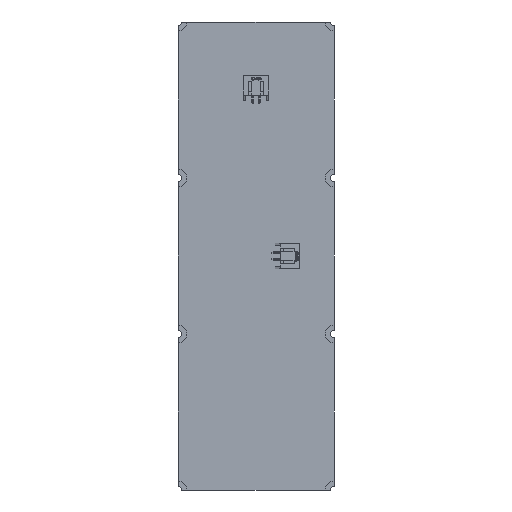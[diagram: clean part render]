
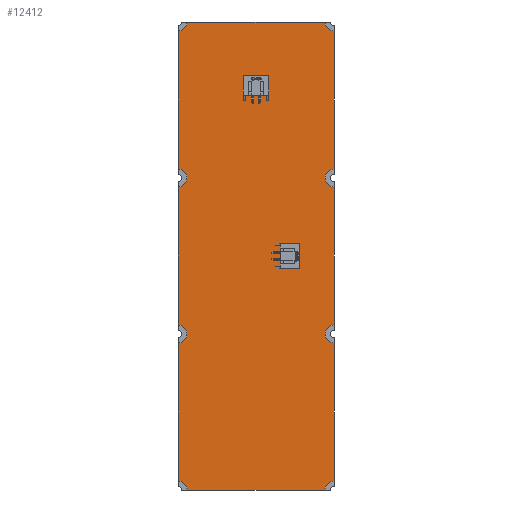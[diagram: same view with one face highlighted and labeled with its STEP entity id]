
A CAD part, front view. The second image highlights one B-rep face of the part: STEP entity #12412.
In plain terms, the highlighted planar face has unit normal (0, -1, 0).
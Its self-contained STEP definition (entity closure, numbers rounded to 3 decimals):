
#4312=DIRECTION('',(1.,0.,0.));
#4313=VECTOR('',#4312,5.1);
#4314=CARTESIAN_POINT('',(-2.55,0.,52.5));
#4315=LINE('',#4314,#4313);
#4316=DIRECTION('',(0.,0.,1.));
#4317=VECTOR('',#4316,3.);
#4318=CARTESIAN_POINT('',(2.55,0.,52.5));
#4319=LINE('',#4318,#4317);
#4320=DIRECTION('',(-1.,0.,0.));
#4321=VECTOR('',#4320,5.1);
#4322=CARTESIAN_POINT('',(2.55,0.,55.5));
#4323=LINE('',#4322,#4321);
#4324=DIRECTION('',(0.,0.,-1.));
#4325=VECTOR('',#4324,3.);
#4326=CARTESIAN_POINT('',(-2.55,0.,55.5));
#4327=LINE('',#4326,#4325);
#4328=DIRECTION('',(1.,0.,0.));
#4329=VECTOR('',#4328,3.);
#4330=CARTESIAN_POINT('',(10.5,0.,-2.55));
#4331=LINE('',#4330,#4329);
#4332=DIRECTION('',(0.,0.,1.));
#4333=VECTOR('',#4332,5.1);
#4334=CARTESIAN_POINT('',(13.5,0.,-2.55));
#4335=LINE('',#4334,#4333);
#4336=DIRECTION('',(-1.,0.,0.));
#4337=VECTOR('',#4336,3.);
#4338=CARTESIAN_POINT('',(13.5,0.,2.55));
#4339=LINE('',#4338,#4337);
#4340=DIRECTION('',(0.,0.,-1.));
#4341=VECTOR('',#4340,5.1);
#4342=CARTESIAN_POINT('',(10.5,0.,2.55));
#4343=LINE('',#4342,#4341);
#4344=CARTESIAN_POINT('',(-24.,0.,-72.));
#4345=DIRECTION('',(0.,-1.,0.));
#4346=DIRECTION('',(1.,0.,0.));
#4347=AXIS2_PLACEMENT_3D('',#4344,#4345,#4346);
#4349=DIRECTION('',(0.,0.,1.));
#4350=VECTOR('',#4349,42.5);
#4351=CARTESIAN_POINT('',(-24.,0.,-69.25));
#4352=LINE('',#4351,#4350);
#4353=CARTESIAN_POINT('',(-24.,0.,-24.));
#4354=DIRECTION('',(0.,-1.,0.));
#4355=DIRECTION('',(0.,0.,-1.));
#4356=AXIS2_PLACEMENT_3D('',#4353,#4354,#4355);
#4358=DIRECTION('',(0.,0.,1.));
#4359=VECTOR('',#4358,42.5);
#4360=CARTESIAN_POINT('',(-24.,0.,-21.25));
#4361=LINE('',#4360,#4359);
#4362=CARTESIAN_POINT('',(-24.,0.,24.));
#4363=DIRECTION('',(0.,-1.,0.));
#4364=DIRECTION('',(0.,0.,-1.));
#4365=AXIS2_PLACEMENT_3D('',#4362,#4363,#4364);
#4367=DIRECTION('',(0.,0.,1.));
#4368=VECTOR('',#4367,42.5);
#4369=CARTESIAN_POINT('',(-24.,0.,26.75));
#4370=LINE('',#4369,#4368);
#4371=CARTESIAN_POINT('',(-24.,0.,72.));
#4372=DIRECTION('',(0.,-1.,0.));
#4373=DIRECTION('',(0.,0.,-1.));
#4374=AXIS2_PLACEMENT_3D('',#4371,#4372,#4373);
#4376=DIRECTION('',(1.,0.,0.));
#4377=VECTOR('',#4376,42.5);
#4378=CARTESIAN_POINT('',(-21.25,0.,72.));
#4379=LINE('',#4378,#4377);
#4380=CARTESIAN_POINT('',(24.,0.,72.));
#4381=DIRECTION('',(0.,-1.,0.));
#4382=DIRECTION('',(-1.,0.,0.));
#4383=AXIS2_PLACEMENT_3D('',#4380,#4381,#4382);
#4385=DIRECTION('',(0.,0.,-1.));
#4386=VECTOR('',#4385,42.5);
#4387=CARTESIAN_POINT('',(24.,0.,69.25));
#4388=LINE('',#4387,#4386);
#4389=CARTESIAN_POINT('',(24.,0.,24.));
#4390=DIRECTION('',(0.,-1.,0.));
#4391=DIRECTION('',(0.,0.,1.));
#4392=AXIS2_PLACEMENT_3D('',#4389,#4390,#4391);
#4394=DIRECTION('',(0.,0.,-1.));
#4395=VECTOR('',#4394,42.5);
#4396=CARTESIAN_POINT('',(24.,0.,21.25));
#4397=LINE('',#4396,#4395);
#4398=CARTESIAN_POINT('',(24.,0.,-24.));
#4399=DIRECTION('',(0.,-1.,0.));
#4400=DIRECTION('',(0.,0.,1.));
#4401=AXIS2_PLACEMENT_3D('',#4398,#4399,#4400);
#4403=DIRECTION('',(0.,0.,-1.));
#4404=VECTOR('',#4403,42.5);
#4405=CARTESIAN_POINT('',(24.,0.,-26.75));
#4406=LINE('',#4405,#4404);
#4407=CARTESIAN_POINT('',(24.,0.,-72.));
#4408=DIRECTION('',(0.,-1.,0.));
#4409=DIRECTION('',(0.,0.,1.));
#4410=AXIS2_PLACEMENT_3D('',#4407,#4408,#4409);
#4412=DIRECTION('',(-1.,0.,0.));
#4413=VECTOR('',#4412,42.5);
#4414=CARTESIAN_POINT('',(21.25,0.,-72.));
#4415=LINE('',#4414,#4413);
#5892=CARTESIAN_POINT('',(-2.55,0.,52.5));
#5893=CARTESIAN_POINT('',(2.55,0.,52.5));
#5894=VERTEX_POINT('',#5892);
#5895=VERTEX_POINT('',#5893);
#5896=CARTESIAN_POINT('',(2.55,0.,55.5));
#5897=VERTEX_POINT('',#5896);
#5898=CARTESIAN_POINT('',(-2.55,0.,55.5));
#5899=VERTEX_POINT('',#5898);
#5900=CARTESIAN_POINT('',(10.5,0.,-2.55));
#5901=CARTESIAN_POINT('',(13.5,0.,-2.55));
#5902=VERTEX_POINT('',#5900);
#5903=VERTEX_POINT('',#5901);
#5904=CARTESIAN_POINT('',(13.5,0.,2.55));
#5905=VERTEX_POINT('',#5904);
#5906=CARTESIAN_POINT('',(10.5,0.,2.55));
#5907=VERTEX_POINT('',#5906);
#5972=CARTESIAN_POINT('',(-21.25,0.,-72.));
#5973=CARTESIAN_POINT('',(-24.,0.,-69.25));
#5974=VERTEX_POINT('',#5972);
#5975=VERTEX_POINT('',#5973);
#5976=CARTESIAN_POINT('',(24.,0.,-69.25));
#5977=CARTESIAN_POINT('',(21.25,0.,-72.));
#5978=VERTEX_POINT('',#5976);
#5979=VERTEX_POINT('',#5977);
#5980=CARTESIAN_POINT('',(-24.,0.,-26.75));
#5981=CARTESIAN_POINT('',(-24.,0.,-21.25));
#5982=VERTEX_POINT('',#5980);
#5983=VERTEX_POINT('',#5981);
#5984=CARTESIAN_POINT('',(-24.,0.,21.25));
#5985=CARTESIAN_POINT('',(-24.,0.,26.75));
#5986=VERTEX_POINT('',#5984);
#5987=VERTEX_POINT('',#5985);
#5988=CARTESIAN_POINT('',(-24.,0.,69.25));
#5989=CARTESIAN_POINT('',(-21.25,0.,72.));
#5990=VERTEX_POINT('',#5988);
#5991=VERTEX_POINT('',#5989);
#5992=CARTESIAN_POINT('',(24.,0.,-21.25));
#5993=CARTESIAN_POINT('',(24.,0.,-26.75));
#5994=VERTEX_POINT('',#5992);
#5995=VERTEX_POINT('',#5993);
#5996=CARTESIAN_POINT('',(21.25,0.,72.));
#5997=CARTESIAN_POINT('',(24.,0.,69.25));
#5998=VERTEX_POINT('',#5996);
#5999=VERTEX_POINT('',#5997);
#6000=CARTESIAN_POINT('',(24.,0.,26.75));
#6001=CARTESIAN_POINT('',(24.,0.,21.25));
#6002=VERTEX_POINT('',#6000);
#6003=VERTEX_POINT('',#6001);
#12358=CARTESIAN_POINT('',(0.,0.,0.));
#12359=DIRECTION('',(0.,1.,0.));
#12360=DIRECTION('',(1.,0.,0.));
#12361=AXIS2_PLACEMENT_3D('',#12358,#12359,#12360);
#12362=PLANE('',#12361);
#12364=ORIENTED_EDGE('',*,*,#12363,.T.);
#12365=ORIENTED_EDGE('',*,*,#12150,.T.);
#12367=ORIENTED_EDGE('',*,*,#12366,.T.);
#12368=ORIENTED_EDGE('',*,*,#12119,.T.);
#12370=ORIENTED_EDGE('',*,*,#12369,.T.);
#12371=ORIENTED_EDGE('',*,*,#12089,.T.);
#12372=ORIENTED_EDGE('',*,*,#12350,.T.);
#12373=ORIENTED_EDGE('',*,*,#12055,.T.);
#12375=ORIENTED_EDGE('',*,*,#12374,.T.);
#12377=ORIENTED_EDGE('',*,*,#12376,.T.);
#12379=ORIENTED_EDGE('',*,*,#12378,.T.);
#12381=ORIENTED_EDGE('',*,*,#12380,.T.);
#12383=ORIENTED_EDGE('',*,*,#12382,.T.);
#12385=ORIENTED_EDGE('',*,*,#12384,.T.);
#12387=ORIENTED_EDGE('',*,*,#12386,.T.);
#12389=ORIENTED_EDGE('',*,*,#12388,.T.);
#12390=EDGE_LOOP('',(#12364,#12365,#12367,#12368,#12370,#12371,#12372,#12373,
#12375,#12377,#12379,#12381,#12383,#12385,#12387,#12389));
#12391=FACE_OUTER_BOUND('',#12390,.F.);
#12393=ORIENTED_EDGE('',*,*,#12392,.T.);
#12395=ORIENTED_EDGE('',*,*,#12394,.T.);
#12397=ORIENTED_EDGE('',*,*,#12396,.T.);
#12399=ORIENTED_EDGE('',*,*,#12398,.T.);
#12400=EDGE_LOOP('',(#12393,#12395,#12397,#12399));
#12401=FACE_BOUND('',#12400,.F.);
#12403=ORIENTED_EDGE('',*,*,#12402,.T.);
#12405=ORIENTED_EDGE('',*,*,#12404,.T.);
#12407=ORIENTED_EDGE('',*,*,#12406,.T.);
#12409=ORIENTED_EDGE('',*,*,#12408,.T.);
#12410=EDGE_LOOP('',(#12403,#12405,#12407,#12409));
#12411=FACE_BOUND('',#12410,.F.);
#12412=ADVANCED_FACE('',(#12391,#12401,#12411),#12362,.F.);
#4348=CIRCLE('',#4347,2.75);
#4357=CIRCLE('',#4356,2.75);
#4366=CIRCLE('',#4365,2.75);
#4375=CIRCLE('',#4374,2.75);
#4384=CIRCLE('',#4383,2.75);
#4393=CIRCLE('',#4392,2.75);
#4402=CIRCLE('',#4401,2.75);
#4411=CIRCLE('',#4410,2.75);
#12055=EDGE_CURVE('',#5991,#5998,#4379,.T.);
#12089=EDGE_CURVE('',#5987,#5990,#4370,.T.);
#12119=EDGE_CURVE('',#5983,#5986,#4361,.T.);
#12150=EDGE_CURVE('',#5975,#5982,#4352,.T.);
#12350=EDGE_CURVE('',#5990,#5991,#4375,.T.);
#12363=EDGE_CURVE('',#5974,#5975,#4348,.T.);
#12366=EDGE_CURVE('',#5982,#5983,#4357,.T.);
#12369=EDGE_CURVE('',#5986,#5987,#4366,.T.);
#12374=EDGE_CURVE('',#5998,#5999,#4384,.T.);
#12376=EDGE_CURVE('',#5999,#6002,#4388,.T.);
#12378=EDGE_CURVE('',#6002,#6003,#4393,.T.);
#12380=EDGE_CURVE('',#6003,#5994,#4397,.T.);
#12382=EDGE_CURVE('',#5994,#5995,#4402,.T.);
#12384=EDGE_CURVE('',#5995,#5978,#4406,.T.);
#12386=EDGE_CURVE('',#5978,#5979,#4411,.T.);
#12388=EDGE_CURVE('',#5979,#5974,#4415,.T.);
#12392=EDGE_CURVE('',#5902,#5903,#4331,.T.);
#12394=EDGE_CURVE('',#5903,#5905,#4335,.T.);
#12396=EDGE_CURVE('',#5905,#5907,#4339,.T.);
#12398=EDGE_CURVE('',#5907,#5902,#4343,.T.);
#12402=EDGE_CURVE('',#5894,#5895,#4315,.T.);
#12404=EDGE_CURVE('',#5895,#5897,#4319,.T.);
#12406=EDGE_CURVE('',#5897,#5899,#4323,.T.);
#12408=EDGE_CURVE('',#5899,#5894,#4327,.T.);
